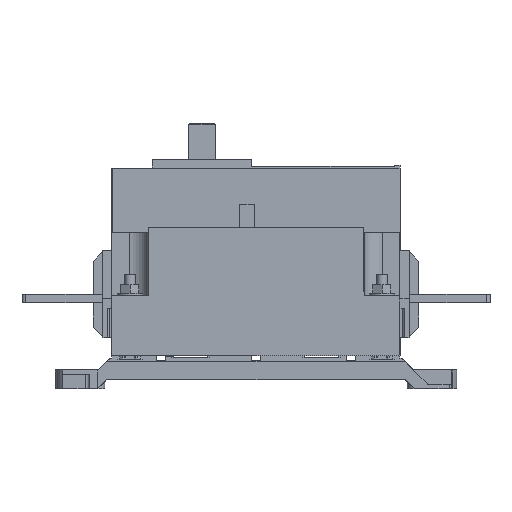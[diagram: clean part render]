
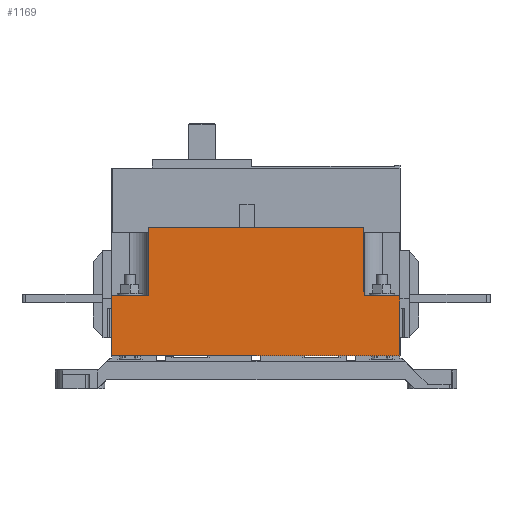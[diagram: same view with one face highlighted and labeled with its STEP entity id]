
A CAD part, left-side view. The second image highlights one B-rep face of the part: STEP entity #1169.
In plain terms, the highlighted planar face has unit normal (-1, 0, 0).
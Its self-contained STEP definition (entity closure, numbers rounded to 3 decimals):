
#1169=ADVANCED_FACE('',(#2602),#1983,.T.);
#1983=PLANE('',#16629);
#2602=FACE_OUTER_BOUND('',#3492,.T.);
#3492=EDGE_LOOP('',(#5578,#5579,#5580,#5581,#5582,#5583,#5584,#5585));
#5578=ORIENTED_EDGE('',*,*,#11300,.T.);
#5579=ORIENTED_EDGE('',*,*,#11301,.F.);
#5580=ORIENTED_EDGE('',*,*,#11302,.F.);
#5581=ORIENTED_EDGE('',*,*,#11303,.T.);
#5582=ORIENTED_EDGE('',*,*,#11304,.F.);
#5583=ORIENTED_EDGE('',*,*,#11305,.F.);
#5584=ORIENTED_EDGE('',*,*,#11306,.T.);
#5585=ORIENTED_EDGE('',*,*,#11284,.F.);
#9682=VERTEX_POINT('',#23407);
#9683=VERTEX_POINT('',#23408);
#9692=VERTEX_POINT('',#23438);
#9693=VERTEX_POINT('',#23440);
#9694=VERTEX_POINT('',#23442);
#9695=VERTEX_POINT('',#23444);
#9696=VERTEX_POINT('',#23446);
#9697=VERTEX_POINT('',#23448);
#11284=EDGE_CURVE('',#9682,#9683,#13312,.T.);
#11300=EDGE_CURVE('',#9682,#9692,#13326,.T.);
#11301=EDGE_CURVE('',#9693,#9692,#13327,.T.);
#11302=EDGE_CURVE('',#9694,#9693,#13328,.T.);
#11303=EDGE_CURVE('',#9694,#9695,#13329,.T.);
#11304=EDGE_CURVE('',#9696,#9695,#13330,.T.);
#11305=EDGE_CURVE('',#9697,#9696,#13331,.T.);
#11306=EDGE_CURVE('',#9697,#9683,#13332,.T.);
#13312=LINE('',#23406,#14918);
#13326=LINE('',#23437,#14932);
#13327=LINE('',#23439,#14933);
#13328=LINE('',#23441,#14934);
#13329=LINE('',#23443,#14935);
#13330=LINE('',#23445,#14936);
#13331=LINE('',#23447,#14937);
#13332=LINE('',#23449,#14938);
#14918=VECTOR('',#18595,1.);
#14932=VECTOR('',#18623,1.);
#14933=VECTOR('',#18624,1.);
#14934=VECTOR('',#18625,1.);
#14935=VECTOR('',#18626,1.);
#14936=VECTOR('',#18627,1.);
#14937=VECTOR('',#18628,1.);
#14938=VECTOR('',#18629,1.);
#16629=AXIS2_PLACEMENT_3D('',#23450,#18630,#18631);
#18595=DIRECTION('',(0.,-1.,0.));
#18623=DIRECTION('',(0.,0.,-1.));
#18624=DIRECTION('',(0.,1.,0.));
#18625=DIRECTION('',(0.,0.,-1.));
#18626=DIRECTION('',(0.,1.,0.));
#18627=DIRECTION('',(0.,0.,-1.));
#18628=DIRECTION('',(0.,-1.,0.));
#18629=DIRECTION('',(0.,0.,-1.));
#18630=DIRECTION('',(-1.,0.,0.));
#18631=DIRECTION('',(0.,-1.,0.));
#23406=CARTESIAN_POINT('',(-145.,40.,-46.));
#23407=CARTESIAN_POINT('',(-145.,50.,-46.));
#23408=CARTESIAN_POINT('',(-145.,30.,-46.));
#23437=CARTESIAN_POINT('',(-145.,50.,-32.));
#23438=CARTESIAN_POINT('',(-145.,50.,-79.1));
#23439=CARTESIAN_POINT('',(-145.,41.,-79.1));
#23440=CARTESIAN_POINT('',(-145.,-110.,-79.1));
#23441=CARTESIAN_POINT('',(-145.,-110.,-50.2));
#23442=CARTESIAN_POINT('',(-145.,-110.,-46.));
#23443=CARTESIAN_POINT('',(-145.,-107.5,-46.));
#23444=CARTESIAN_POINT('',(-145.,-90.,-46.));
#23445=CARTESIAN_POINT('',(-145.,-90.,-40.25));
#23446=CARTESIAN_POINT('',(-145.,-90.,-8.));
#23447=CARTESIAN_POINT('',(-145.,-23.6,-8.));
#23448=CARTESIAN_POINT('',(-145.,30.,-8.));
#23449=CARTESIAN_POINT('',(-145.,30.,-54.7));
#23450=CARTESIAN_POINT('',(-145.,-107.5,-40.85));
